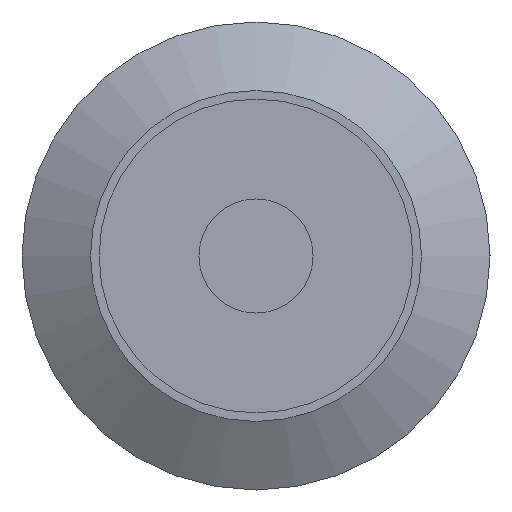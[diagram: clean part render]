
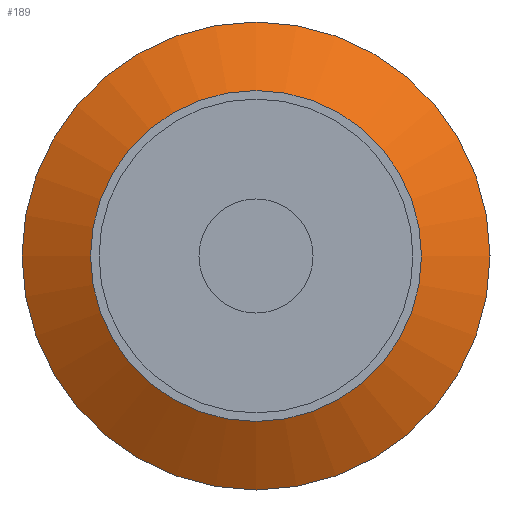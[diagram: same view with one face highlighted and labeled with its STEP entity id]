
A CAD part, left-side view. The second image highlights one B-rep face of the part: STEP entity #189.
In plain terms, the highlighted conical face has half-angle 60 degrees and reference radius 2.9 mm.
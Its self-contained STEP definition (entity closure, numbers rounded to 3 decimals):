
#20=CONICAL_SURFACE('',#227,2.9,1.047);
#44=ORIENTED_EDGE('',*,*,#69,.F.);
#45=ORIENTED_EDGE('',*,*,#68,.T.);
#68=EDGE_CURVE('',#84,#84,#100,.T.);
#69=EDGE_CURVE('',#85,#85,#101,.T.);
#84=VERTEX_POINT('',#336);
#85=VERTEX_POINT('',#339);
#100=CIRCLE('',#226,2.9);
#101=CIRCLE('',#228,4.1);
#124=EDGE_LOOP('',(#44));
#125=EDGE_LOOP('',(#45));
#156=FACE_BOUND('',#124,.T.);
#157=FACE_BOUND('',#125,.T.);
#189=ADVANCED_FACE('',(#156,#157),#20,.T.);
#226=AXIS2_PLACEMENT_3D('',#335,#276,#277);
#227=AXIS2_PLACEMENT_3D('',#337,#278,#279);
#228=AXIS2_PLACEMENT_3D('',#338,#280,#281);
#276=DIRECTION('',(1.,0.,0.));
#277=DIRECTION('',(0.,1.,0.));
#278=DIRECTION('',(1.,0.,0.));
#279=DIRECTION('',(0.,1.,0.));
#280=DIRECTION('',(1.,0.,0.));
#281=DIRECTION('',(0.,1.,0.));
#335=CARTESIAN_POINT('',(14.107,0.,0.));
#336=CARTESIAN_POINT('',(14.107,2.9,0.));
#337=CARTESIAN_POINT('',(14.107,0.,0.));
#338=CARTESIAN_POINT('',(14.8,0.,0.));
#339=CARTESIAN_POINT('',(14.8,4.1,0.));
